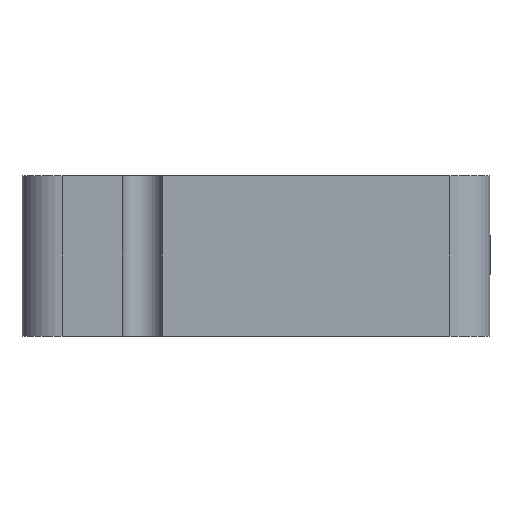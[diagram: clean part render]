
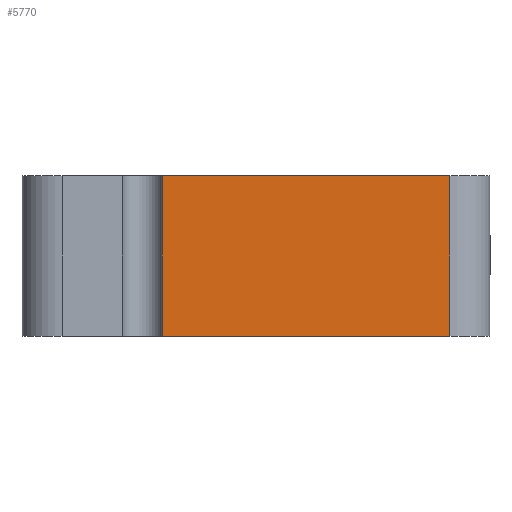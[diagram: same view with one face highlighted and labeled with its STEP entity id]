
A CAD part, left-side view. The second image highlights one B-rep face of the part: STEP entity #5770.
In plain terms, the highlighted planar face has unit normal (-1, 0, 0).
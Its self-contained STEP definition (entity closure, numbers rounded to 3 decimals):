
#235 = CARTESIAN_POINT ( 'NONE',  ( -12.5, 7., -6. ) ) ;
#1216 = EDGE_CURVE ( 'NONE', #4425, #5669, #3919, .T. ) ;
#1306 = VECTOR ( 'NONE', #4348, 1000. ) ;
#1445 = CARTESIAN_POINT ( 'NONE',  ( -12.5, 7., 6. ) ) ;
#2218 = ORIENTED_EDGE ( 'NONE', *, *, #1216, .F. ) ;
#2222 = EDGE_CURVE ( 'NONE', #5693, #4425, #6120, .T. ) ;
#2227 = FACE_OUTER_BOUND ( 'NONE', #2458, .T. ) ;
#2458 = EDGE_LOOP ( 'NONE', ( #6761, #2218, #5281, #5368 ) ) ;
#2590 = AXIS2_PLACEMENT_3D ( 'NONE', #5296, #7673, #7598 ) ;
#2601 = CARTESIAN_POINT ( 'NONE',  ( -12.5, -14.5, 6. ) ) ;
#3133 = LINE ( 'NONE', #5540, #6181 ) ;
#3771 = VECTOR ( 'NONE', #6360, 1000. ) ;
#3919 = LINE ( 'NONE', #5144, #3771 ) ;
#4348 = DIRECTION ( 'NONE',  ( 0., -1., 0. ) ) ;
#4425 = VERTEX_POINT ( 'NONE', #2601 ) ;
#4463 = CARTESIAN_POINT ( 'NONE',  ( -12.5, 7., 6. ) ) ;
#4555 = VECTOR ( 'NONE', #6825, 1000. ) ;
#5144 = CARTESIAN_POINT ( 'NONE',  ( -12.5, -14.5, 6. ) ) ;
#5281 = ORIENTED_EDGE ( 'NONE', *, *, #2222, .F. ) ;
#5296 = CARTESIAN_POINT ( 'NONE',  ( -12.5, 7., 6. ) ) ;
#5368 = ORIENTED_EDGE ( 'NONE', *, *, #7513, .T. ) ;
#5540 = CARTESIAN_POINT ( 'NONE',  ( -12.5, 7., -6. ) ) ;
#5607 = CARTESIAN_POINT ( 'NONE',  ( -12.5, -14.5, -6. ) ) ;
#5661 = LINE ( 'NONE', #6244, #4555 ) ;
#5669 = VERTEX_POINT ( 'NONE', #5607 ) ;
#5680 = VERTEX_POINT ( 'NONE', #235 ) ;
#5693 = VERTEX_POINT ( 'NONE', #4463 ) ;
#5764 = PLANE ( 'NONE',  #2590 ) ;
#5770 = ADVANCED_FACE ( 'NONE', ( #2227 ), #5764, .F. ) ;
#6120 = LINE ( 'NONE', #1445, #1306 ) ;
#6181 = VECTOR ( 'NONE', #6743, 1000. ) ;
#6244 = CARTESIAN_POINT ( 'NONE',  ( -12.5, 7., 6. ) ) ;
#6360 = DIRECTION ( 'NONE',  ( 0., 0., -1. ) ) ;
#6743 = DIRECTION ( 'NONE',  ( 0., -1., 0. ) ) ;
#6761 = ORIENTED_EDGE ( 'NONE', *, *, #7373, .T. ) ;
#6825 = DIRECTION ( 'NONE',  ( 0., 0., -1. ) ) ;
#7373 = EDGE_CURVE ( 'NONE', #5680, #5669, #3133, .T. ) ;
#7513 = EDGE_CURVE ( 'NONE', #5693, #5680, #5661, .T. ) ;
#7598 = DIRECTION ( 'NONE',  ( 0., 1., 0. ) ) ;
#7673 = DIRECTION ( 'NONE',  ( 1., 0., 0. ) ) ;
